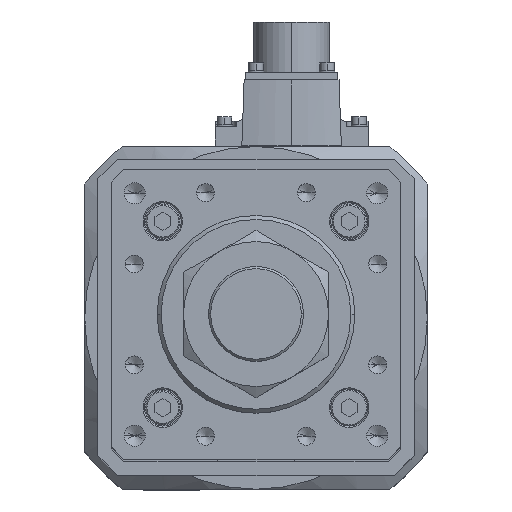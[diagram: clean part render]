
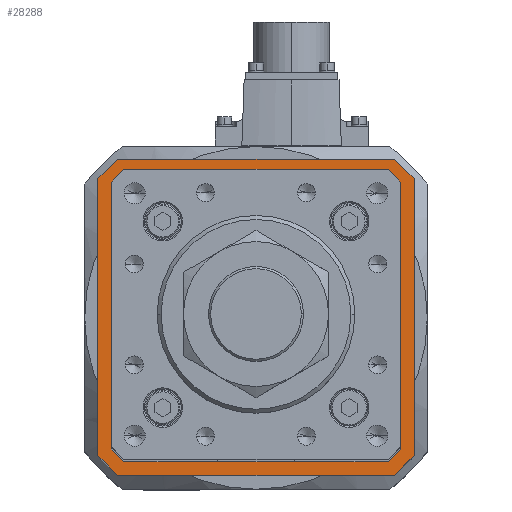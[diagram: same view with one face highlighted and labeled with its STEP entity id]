
A CAD part, top view. The second image highlights one B-rep face of the part: STEP entity #28288.
In plain terms, the highlighted planar face has unit normal (0, 0, 1).
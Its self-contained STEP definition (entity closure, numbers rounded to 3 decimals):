
#28 = VERTEX_POINT ( 'NONE', #13561 ) ;
#200 = EDGE_CURVE ( 'NONE', #21140, #35541, #22235, .T. ) ;
#481 = VECTOR ( 'NONE', #28486, 1000. ) ;
#620 = VECTOR ( 'NONE', #3395, 1000. ) ;
#807 = DIRECTION ( 'NONE',  ( -1., 0., 0. ) ) ;
#870 = DIRECTION ( 'NONE',  ( 0., -1., 0. ) ) ;
#1405 = ORIENTED_EDGE ( 'NONE', *, *, #34474, .T. ) ;
#1408 = VECTOR ( 'NONE', #8055, 1000. ) ;
#1703 = VECTOR ( 'NONE', #1901, 1000. ) ;
#1901 = DIRECTION ( 'NONE',  ( 0.707, -0.707, 0. ) ) ;
#2679 = EDGE_CURVE ( 'NONE', #29421, #22403, #9401, .T. ) ;
#2986 = ORIENTED_EDGE ( 'NONE', *, *, #15254, .T. ) ;
#3119 = EDGE_CURVE ( 'NONE', #35541, #28, #13022, .T. ) ;
#3395 = DIRECTION ( 'NONE',  ( 1., 0., 0. ) ) ;
#3415 = CARTESIAN_POINT ( 'NONE',  ( 60., -52.5, -119. ) ) ;
#4087 = DIRECTION ( 'NONE',  ( 0.707, 0.707, 0. ) ) ;
#4105 = VECTOR ( 'NONE', #870, 1000. ) ;
#4222 = VECTOR ( 'NONE', #23097, 1000. ) ;
#4304 = VECTOR ( 'NONE', #28023, 1000. ) ;
#4352 = ORIENTED_EDGE ( 'NONE', *, *, #3119, .F. ) ;
#4730 = CARTESIAN_POINT ( 'NONE',  ( -60., 52.5, -119. ) ) ;
#4783 = VERTEX_POINT ( 'NONE', #12970 ) ;
#4960 = CARTESIAN_POINT ( 'NONE',  ( 60., 52.5, -119. ) ) ;
#5019 = ORIENTED_EDGE ( 'NONE', *, *, #10087, .F. ) ;
#5052 = VERTEX_POINT ( 'NONE', #31316 ) ;
#5219 = LINE ( 'NONE', #3415, #23422 ) ;
#6429 = ORIENTED_EDGE ( 'NONE', *, *, #15485, .F. ) ;
#6466 = VERTEX_POINT ( 'NONE', #11721 ) ;
#6467 = CARTESIAN_POINT ( 'NONE',  ( 52.5, 60., -119. ) ) ;
#7249 = EDGE_CURVE ( 'NONE', #28, #20155, #26675, .T. ) ;
#7611 = CARTESIAN_POINT ( 'NONE',  ( 53.646, 49.446, -119. ) ) ;
#7669 = DIRECTION ( 'NONE',  ( 0., 1., 0. ) ) ;
#7729 = CARTESIAN_POINT ( 'NONE',  ( 53.5, 49.593, -119. ) ) ;
#8055 = DIRECTION ( 'NONE',  ( -0.707, 0.707, 0. ) ) ;
#8105 = FACE_OUTER_BOUND ( 'NONE', #24242, .T. ) ;
#8356 = CARTESIAN_POINT ( 'NONE',  ( -49.593, -53.5, -119. ) ) ;
#8489 = EDGE_CURVE ( 'NONE', #20155, #11892, #23814, .T. ) ;
#9401 = LINE ( 'NONE', #7611, #27106 ) ;
#9639 = CARTESIAN_POINT ( 'NONE',  ( -60., -52.5, -119. ) ) ;
#9936 = EDGE_CURVE ( 'NONE', #6466, #29421, #26871, .T. ) ;
#10087 = EDGE_CURVE ( 'NONE', #36448, #29349, #13258, .T. ) ;
#10903 = DIRECTION ( 'NONE',  ( -1., 0., 0. ) ) ;
#10908 = CARTESIAN_POINT ( 'NONE',  ( 60., -52.5, -119. ) ) ;
#10937 = DIRECTION ( 'NONE',  ( 0.707, -0.707, 0. ) ) ;
#11631 = CARTESIAN_POINT ( 'NONE',  ( 60., 52.5, -119. ) ) ;
#11660 = LINE ( 'NONE', #25072, #34338 ) ;
#11721 = CARTESIAN_POINT ( 'NONE',  ( -49.593, 53.5, -119. ) ) ;
#11892 = VERTEX_POINT ( 'NONE', #30215 ) ;
#12970 = CARTESIAN_POINT ( 'NONE',  ( -53.5, -49.593, -119. ) ) ;
#13022 = LINE ( 'NONE', #4730, #4304 ) ;
#13258 = LINE ( 'NONE', #14776, #4105 ) ;
#13561 = CARTESIAN_POINT ( 'NONE',  ( -60., 52.5, -119. ) ) ;
#13577 = ORIENTED_EDGE ( 'NONE', *, *, #8489, .F. ) ;
#13711 = CARTESIAN_POINT ( 'NONE',  ( 52.5, -60., -119. ) ) ;
#13943 = CARTESIAN_POINT ( 'NONE',  ( 49.446, -53.646, -119. ) ) ;
#14776 = CARTESIAN_POINT ( 'NONE',  ( 60., 52.5, -119. ) ) ;
#14986 = EDGE_CURVE ( 'NONE', #31552, #35820, #37045, .T. ) ;
#15254 = EDGE_CURVE ( 'NONE', #4783, #26347, #11660, .T. ) ;
#15485 = EDGE_CURVE ( 'NONE', #29349, #36833, #5219, .T. ) ;
#16291 = ORIENTED_EDGE ( 'NONE', *, *, #30492, .T. ) ;
#16872 = DIRECTION ( 'NONE',  ( -0.707, -0.707, 0. ) ) ;
#16937 = LINE ( 'NONE', #25449, #1408 ) ;
#17100 = CARTESIAN_POINT ( 'NONE',  ( -52.5, -60., -119. ) ) ;
#17748 = ORIENTED_EDGE ( 'NONE', *, *, #9936, .T. ) ;
#17858 = EDGE_LOOP ( 'NONE', ( #17748, #36101, #28489, #31093, #36938, #16291, #2986, #1405 ) ) ;
#18788 = CARTESIAN_POINT ( 'NONE',  ( -49.446, 53.646, -119. ) ) ;
#18937 = CARTESIAN_POINT ( 'NONE',  ( 52.5, -60., -119. ) ) ;
#19503 = EDGE_CURVE ( 'NONE', #22403, #5052, #33331, .T. ) ;
#19760 = DIRECTION ( 'NONE',  ( 1., 0., 0. ) ) ;
#19884 = DIRECTION ( 'NONE',  ( 0., 0., 1. ) ) ;
#20155 = VERTEX_POINT ( 'NONE', #28793 ) ;
#21140 = VERTEX_POINT ( 'NONE', #24824 ) ;
#21155 = CARTESIAN_POINT ( 'NONE',  ( -49.8, -53.5, -119. ) ) ;
#22235 = LINE ( 'NONE', #17100, #31802 ) ;
#22241 = CARTESIAN_POINT ( 'NONE',  ( -53.5, 49.593, -119. ) ) ;
#22403 = VERTEX_POINT ( 'NONE', #7729 ) ;
#22739 = CARTESIAN_POINT ( 'NONE',  ( 49.593, 53.5, -119. ) ) ;
#23009 = CARTESIAN_POINT ( 'NONE',  ( 49.8, 53.5, -119. ) ) ;
#23097 = DIRECTION ( 'NONE',  ( 0., -1., 0. ) ) ;
#23422 = VECTOR ( 'NONE', #35178, 1000. ) ;
#23814 = LINE ( 'NONE', #6467, #620 ) ;
#24242 = EDGE_LOOP ( 'NONE', ( #13577, #35471, #4352, #26092, #29082, #6429, #5019, #30190 ) ) ;
#24824 = CARTESIAN_POINT ( 'NONE',  ( -52.5, -60., -119. ) ) ;
#25072 = CARTESIAN_POINT ( 'NONE',  ( -53.5, 49.8, -119. ) ) ;
#25258 = AXIS2_PLACEMENT_3D ( 'NONE', #28536, #19884, #19760 ) ;
#25280 = VECTOR ( 'NONE', #4087, 1000. ) ;
#25359 = FACE_BOUND ( 'NONE', #17858, .T. ) ;
#25449 = CARTESIAN_POINT ( 'NONE',  ( -53.646, -49.446, -119. ) ) ;
#26092 = ORIENTED_EDGE ( 'NONE', *, *, #200, .F. ) ;
#26347 = VERTEX_POINT ( 'NONE', #22241 ) ;
#26575 = LINE ( 'NONE', #18788, #32930 ) ;
#26675 = LINE ( 'NONE', #33304, #25280 ) ;
#26756 = VECTOR ( 'NONE', #10903, 1000. ) ;
#26871 = LINE ( 'NONE', #23009, #481 ) ;
#27106 = VECTOR ( 'NONE', #10937, 1000. ) ;
#27128 = VECTOR ( 'NONE', #16872, 1000. ) ;
#27134 = EDGE_CURVE ( 'NONE', #11892, #36448, #33100, .T. ) ;
#28023 = DIRECTION ( 'NONE',  ( 0., 1., 0. ) ) ;
#28288 = ADVANCED_FACE ( 'NONE', ( #25359, #8105 ), #30944, .T. ) ;
#28486 = DIRECTION ( 'NONE',  ( 1., 0., 0. ) ) ;
#28489 = ORIENTED_EDGE ( 'NONE', *, *, #19503, .T. ) ;
#28536 = CARTESIAN_POINT ( 'NONE',  ( 0., 0., -119. ) ) ;
#28793 = CARTESIAN_POINT ( 'NONE',  ( -52.5, 60., -119. ) ) ;
#29082 = ORIENTED_EDGE ( 'NONE', *, *, #37461, .F. ) ;
#29349 = VERTEX_POINT ( 'NONE', #10908 ) ;
#29421 = VERTEX_POINT ( 'NONE', #22739 ) ;
#29519 = DIRECTION ( 'NONE',  ( -0.707, 0.707, 0. ) ) ;
#30190 = ORIENTED_EDGE ( 'NONE', *, *, #27134, .F. ) ;
#30215 = CARTESIAN_POINT ( 'NONE',  ( 52.5, 60., -119. ) ) ;
#30492 = EDGE_CURVE ( 'NONE', #35820, #4783, #16937, .T. ) ;
#30944 = PLANE ( 'NONE',  #25258 ) ;
#31093 = ORIENTED_EDGE ( 'NONE', *, *, #33606, .T. ) ;
#31316 = CARTESIAN_POINT ( 'NONE',  ( 53.5, -49.593, -119. ) ) ;
#31552 = VERTEX_POINT ( 'NONE', #36117 ) ;
#31802 = VECTOR ( 'NONE', #29519, 1000. ) ;
#32214 = LINE ( 'NONE', #13711, #26756 ) ;
#32930 = VECTOR ( 'NONE', #35667, 1000. ) ;
#33100 = LINE ( 'NONE', #4960, #1703 ) ;
#33304 = CARTESIAN_POINT ( 'NONE',  ( -52.5, 60., -119. ) ) ;
#33331 = LINE ( 'NONE', #37399, #4222 ) ;
#33423 = VECTOR ( 'NONE', #807, 1000. ) ;
#33606 = EDGE_CURVE ( 'NONE', #5052, #31552, #34819, .T. ) ;
#34338 = VECTOR ( 'NONE', #7669, 1000. ) ;
#34474 = EDGE_CURVE ( 'NONE', #26347, #6466, #26575, .T. ) ;
#34819 = LINE ( 'NONE', #13943, #27128 ) ;
#35178 = DIRECTION ( 'NONE',  ( -0.707, -0.707, 0. ) ) ;
#35471 = ORIENTED_EDGE ( 'NONE', *, *, #7249, .F. ) ;
#35541 = VERTEX_POINT ( 'NONE', #9639 ) ;
#35667 = DIRECTION ( 'NONE',  ( 0.707, 0.707, 0. ) ) ;
#35820 = VERTEX_POINT ( 'NONE', #8356 ) ;
#36101 = ORIENTED_EDGE ( 'NONE', *, *, #2679, .T. ) ;
#36117 = CARTESIAN_POINT ( 'NONE',  ( 49.593, -53.5, -119. ) ) ;
#36448 = VERTEX_POINT ( 'NONE', #11631 ) ;
#36833 = VERTEX_POINT ( 'NONE', #18937 ) ;
#36938 = ORIENTED_EDGE ( 'NONE', *, *, #14986, .T. ) ;
#37045 = LINE ( 'NONE', #21155, #33423 ) ;
#37399 = CARTESIAN_POINT ( 'NONE',  ( 53.5, -49.8, -119. ) ) ;
#37461 = EDGE_CURVE ( 'NONE', #36833, #21140, #32214, .T. ) ;
